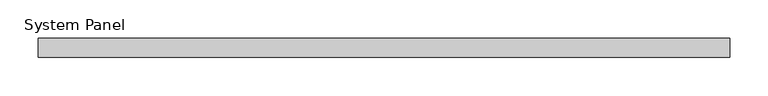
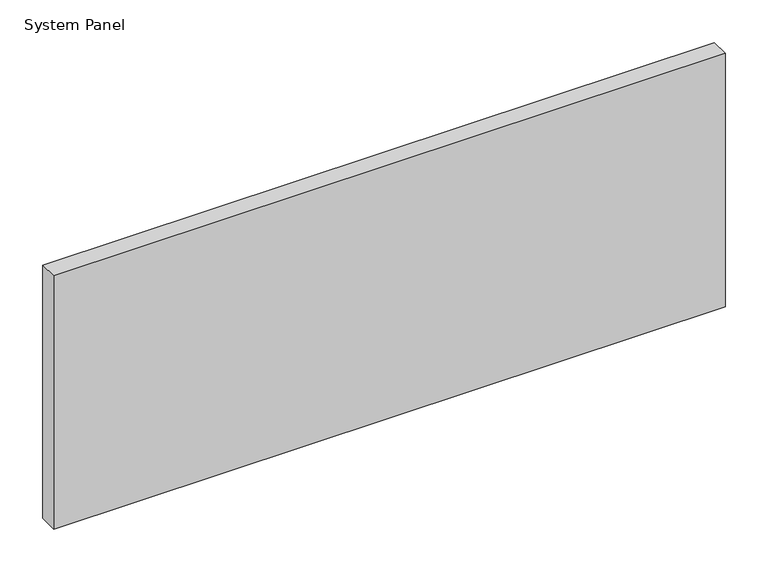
"""IFC4 building model written with IfcOpenShell, lengths in millimetres: plate geometry, System Panel : Glazed - ACMP (AL-1)."""

from ifc_helpers import new_model, si_unit, origin, origin_with_axes, place, context, project, spatial, polyline, outline, extrude, source, transform, mapped, element, save


def system_panel_273e0e7d(model_context):
    return source(origin(), model_context, "Body", "SweptSolid", [
        extrude(outline(polyline([(454.025, 0.0), (-454.025, 0.0), (-454.025, 25.4), (454.025, 25.4), (454.025, 0.0)])), origin_with_axes(), (0.0, 0.0, 1.0), 361.95),
    ])


if __name__ == "__main__":
    model = new_model("IFC4")
    model_context = context("Model", 3, world=origin())
    ifc_project = project(units=[si_unit("LENGTHUNIT", "METRE", prefix="MILLI")], contexts=[model_context])
    site = spatial("IfcSite", under=ifc_project)
    building = spatial("IfcBuilding", under=site)
    placement = place(None, origin())
    system_panel_shape = system_panel_273e0e7d(model_context)
    element("IfcPlate", 1, ObjectType="System Panel : Glazed - ACMP (AL-1)", at=placement, inside=building, context=model_context, shape_type="MappedRepresentation", body=[
        mapped(system_panel_shape, transform((0.0, 0.0, 0.0), x_axis=(1.0, 0.0, 0.0), y_axis=(0.0, 1.0, 0.0), z_axis=(0.0, 0.0, 1.0))),
    ])
    save(model, "model.ifc")
